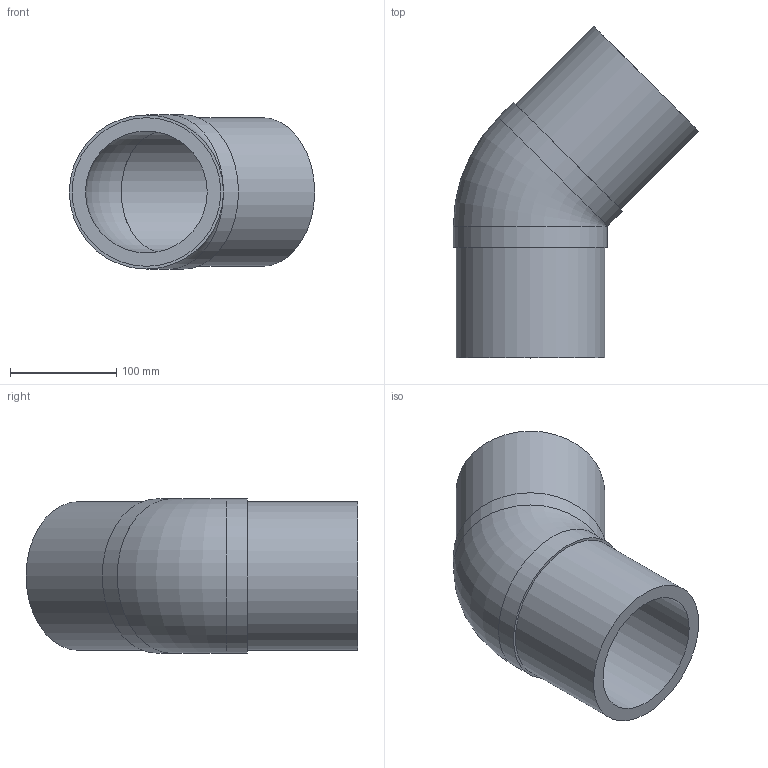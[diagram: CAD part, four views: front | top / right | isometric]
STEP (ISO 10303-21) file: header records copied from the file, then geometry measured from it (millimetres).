
FILE_DESCRIPTION(('Beschreibung'),'1');
FILE_NAME('V:/Ziel/25.15.01.103_SDR11_PE100_140.STP', '2014-09-15T05:55:25',('Author'), ('Organization'), 'KCM Version 1.1.794.0', 'Kubotek KeyCreator', 'Authorization');
FILE_SCHEMA(('CONFIG_CONTROL_DESIGN'));
Length unit declared in the file: millimetre
Bounding box: 230.93 x 312.39 x 145.08 mm (x, y, z)
Volume: 1651752.4 mm3; surface area: 258147.5 mm2
Topology: 1 solids, 1 shells, 17 faces, 60 edges, 67 vertices
Faces by surface type: plane 6, cylinder 5, cone 3, torus 2, bspline 1
Full cylindrical faces by diameter (mm): 114.4 x1, 114.6 x2, 140 x2
Entity records: 680 total; most frequent: CARTESIAN_POINT 120, DIRECTION 108, ORIENTED_EDGE 78, AXIS2_PLACEMENT_3D 40, EDGE_CURVE 39, VERTEX_POINT 28, VECTOR 28, LINE 28
